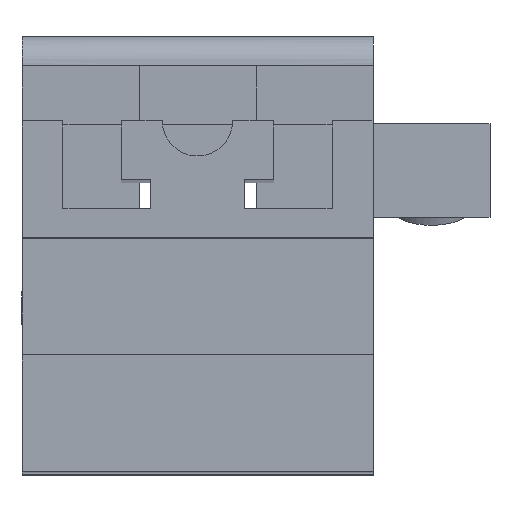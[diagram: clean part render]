
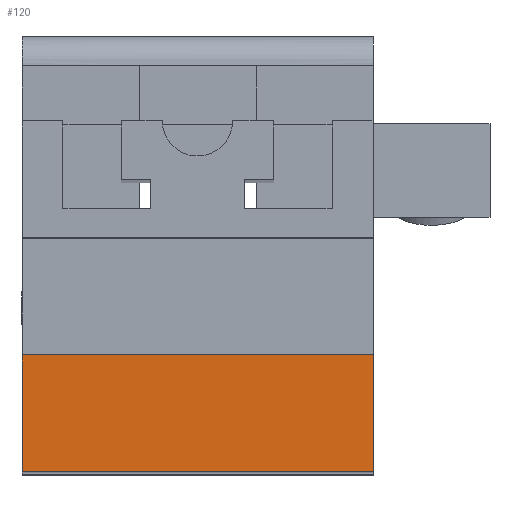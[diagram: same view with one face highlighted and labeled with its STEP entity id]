
A CAD part, top view. The second image highlights one B-rep face of the part: STEP entity #120.
In plain terms, the highlighted planar face has unit normal (0, 0, 1).
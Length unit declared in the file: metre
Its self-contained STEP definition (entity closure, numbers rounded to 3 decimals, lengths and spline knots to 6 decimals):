
#120 = ADVANCED_FACE( '', ( #278 ), #279, .T. );
#278 = FACE_OUTER_BOUND( '', #477, .T. );
#279 = PLANE( '', #478 );
#477 = EDGE_LOOP( '', ( #775, #776, #777, #778 ) );
#478 = AXIS2_PLACEMENT_3D( '', #779, #780, #781 );
#775 = ORIENTED_EDGE( '', *, *, #1316, .F. );
#776 = ORIENTED_EDGE( '', *, *, #1347, .T. );
#777 = ORIENTED_EDGE( '', *, *, #1348, .T. );
#778 = ORIENTED_EDGE( '', *, *, #1349, .F. );
#779 = CARTESIAN_POINT( '', ( 0., 0.01905, 0.1143 ) );
#780 = DIRECTION( '', ( 0., 0., 1. ) );
#781 = DIRECTION( '', ( 0., -1., 0. ) );
#1316 = EDGE_CURVE( '', #1620, #1621, #1622, .T. );
#1347 = EDGE_CURVE( '', #1620, #1669, #1670, .T. );
#1348 = EDGE_CURVE( '', #1669, #1671, #1672, .F. );
#1349 = EDGE_CURVE( '', #1621, #1671, #1673, .F. );
#1620 = VERTEX_POINT( '', #2154 );
#1621 = VERTEX_POINT( '', #2155 );
#1622 = LINE( '', #2156, #2157 );
#1669 = VERTEX_POINT( '', #2228 );
#1670 = LINE( '', #2229, #2230 );
#1671 = VERTEX_POINT( '', #2231 );
#1672 = LINE( '', #2232, #2233 );
#1673 = LINE( '', #2234, #2235 );
#2154 = CARTESIAN_POINT( '', ( 0., -0.00635, 0.1143 ) );
#2155 = CARTESIAN_POINT( '', ( 0.0381, -0.00635, 0.1143 ) );
#2156 = CARTESIAN_POINT( '', ( 0.01905, -0.00635, 0.1143 ) );
#2157 = VECTOR( '', #2865, 1. );
#2228 = CARTESIAN_POINT( '', ( 0., -0.01905, 0.1143 ) );
#2229 = CARTESIAN_POINT( '', ( 0., -0.00635, 0.1143 ) );
#2230 = VECTOR( '', #2873, 1. );
#2231 = CARTESIAN_POINT( '', ( 0.0381, -0.01905, 0.1143 ) );
#2232 = CARTESIAN_POINT( '', ( 0.0381, -0.01905, 0.1143 ) );
#2233 = VECTOR( '', #2874, 1. );
#2234 = CARTESIAN_POINT( '', ( 0.0381, 0., 0.1143 ) );
#2235 = VECTOR( '', #2875, 1. );
#2865 = DIRECTION( '', ( 1., 0., 0. ) );
#2873 = DIRECTION( '', ( 0., -1., 0. ) );
#2874 = DIRECTION( '', ( -1., 0., 0. ) );
#2875 = DIRECTION( '', ( 0., 1., 0. ) );
